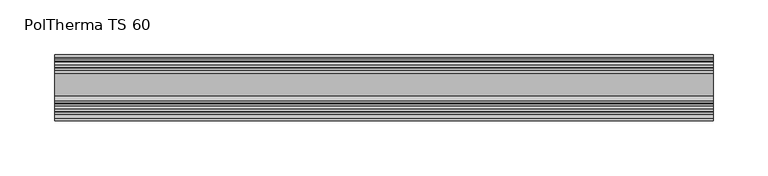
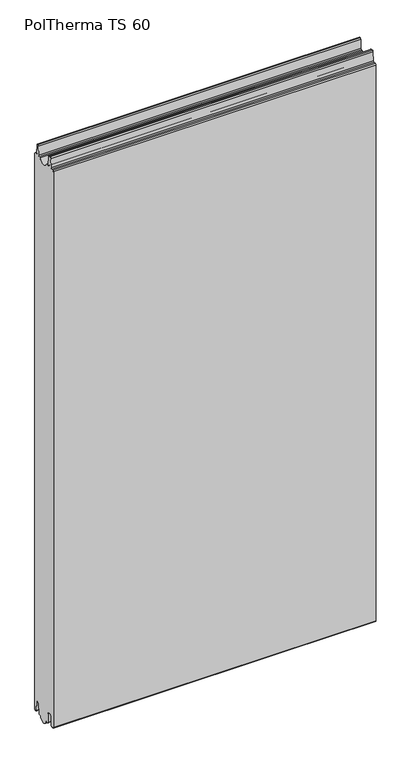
"""IFC4 building model written with IfcOpenShell, lengths in millimetres: plate geometry, Europanels_Poltherma TS_Hz : PolTherma TS 60."""

from ifc_helpers import new_model, si_unit, frame, origin, place, context, project, spatial, polyline, circle_curve, source, transform, mapped, element, save
from ifc_brep_helpers import plane_surface, cylinder_surface, revolved_surface, advanced_brep


def poltherma_ts_60_9aed752a(model_context):
    return source(origin(), model_context, "Body", "AdvancedBrep", [
        advanced_brep(
        [(300.0, -30.0, 1096.5011047), (300.0, -30.0, 3.4988953), (300.0, -28.0, 1.4988953), (300.0, -25.2751521, 1.4988953), (300.0, -23.2780726, 3.3908514), (300.0, -22.3165207, 21.1641379), (300.0, -19.3209015, 24.0020721), (300.0, -16.3793238, 24.0020721), (300.0, -13.3842966, 21.1747334), (300.0, -12.3477941, 3.1952985), (300.0, -10.5507777, 1.4988953), (300.0, -7.1267156, 1.4988953), (300.0, 12.5267156, 1.4988953), (300.0, 14.9895357, 1.4988953), (300.0, 16.7366349, 3.1481762), (300.0, 17.7718427, 21.1051522), (300.0, 24.3282622, 21.093556), (300.0, 25.2663769, 3.7534806), (300.0, 30.0, 3.8814338), (300.0, 30.0, 1096.5011047), (300.0, 28.0, 1098.5011047), (300.0, 26.2557869, 1098.5011047), (300.0, 24.2596673, 1100.3765791), (300.0, 23.1836057, 1117.6256302), (300.0, 20.8891901, 1119.5129093), (300.0, 18.8727407, 1117.5838246), (300.0, 18.1120505, 1100.4152514), (300.0, 16.113894, 1098.5011047), (300.0, 13.3234285, 1098.5011047), (300.0, -7.9234285, 1098.5011047), (300.0, -11.9117672, 1098.5011047), (300.0, -13.7101357, 1100.2244834), (300.0, -14.4498501, 1117.5862394), (300.0, -16.4480373, 1119.5011047), (300.0, -19.1874198, 1119.5011047), (300.0, -21.1836192, 1117.624345), (300.0, -22.2483736, 1100.3778643), (300.0, -24.244573, 1098.5011047), (300.0, -28.0, 1098.5011047), (-300.0, -30.0, 1096.5011047), (-300.0, -28.0, 1098.5011047), (-300.0, -24.244573, 1098.5011047), (-300.0, -22.2483736, 1100.3778643), (-300.0, -21.1836192, 1117.624345), (-300.0, -19.1874198, 1119.5011047), (-300.0, -16.4480373, 1119.5011047), (-300.0, -14.4498501, 1117.5862394), (-300.0, -13.7101357, 1100.2244834), (-300.0, -11.9117672, 1098.5011047), (-300.0, -7.9234285, 1098.5011047), (-300.0, 13.3234285, 1098.5011047), (-300.0, 16.113894, 1098.5011047), (-300.0, 18.1120505, 1100.4152514), (-300.0, 18.8727407, 1117.5838246), (-300.0, 20.8891901, 1119.5129093), (-300.0, 23.1349611, 1117.6366155), (-300.0, 24.2596673, 1100.3765791), (-300.0, 26.2557869, 1098.5011047), (-300.0, 28.0, 1098.5011047), (-300.0, 30.0, 1096.5011047), (-300.0, 30.0, 3.8814338), (-300.0, 25.2663769, 3.7534806), (-300.0, 24.3282622, 21.093556), (-300.0, 17.7718427, 21.1051522), (-300.0, 16.7366349, 3.1481762), (-300.0, 14.9895357, 1.4988953), (-300.0, 12.5267156, 1.4988953), (-300.0, -7.1267156, 1.4988953), (-300.0, -10.5507777, 1.4988953), (-300.0, -12.3477941, 3.1952985), (-300.0, -13.3842966, 21.1747334), (-300.0, -16.3793238, 24.0020721), (-300.0, -19.3209015, 24.0020721), (-300.0, -22.3165207, 21.1641379), (-300.0, -23.2780726, 3.3908514), (-300.0, -25.2751521, 1.4988953), (-300.0, -28.0, 1.4988953), (-300.0, -30.0, 3.4988953)],
        [
            (0, 1),
            (1, 2, circle_curve(frame((300.0, -28.0, 3.4988953), z_axis=(1.0, 0.0, 0.0), x_axis=(0.0, 1.0, 0.0)), 2.0)),
            (2, 3),
            (3, 4, circle_curve(frame((300.0, -25.2751521, 3.4988953), z_axis=(1.0, 0.0, 0.0), x_axis=(0.0, 1.0, 0.0)), 2.0)),
            (4, 5),
            (5, 6, circle_curve(frame((300.0, -19.3209015, 21.0020721), z_axis=(-1.0, 0.0, 0.0), x_axis=(0.0, 1.0, 0.0)), 3.0)),
            (6, 7),
            (7, 8, circle_curve(frame((300.0, -16.3793238, 21.0020721), z_axis=(-1.0, 0.0, 0.0), x_axis=(0.0, 1.0, 0.0)), 3.0)),
            (8, 9),
            (9, 10, circle_curve(frame((300.0, -10.5507777, 3.2988953), z_axis=(1.0, 0.0, 0.0), x_axis=(0.0, 1.0, 0.0)), 1.8)),
            (10, 11),
            (11, 12, circle_curve(frame((300.0, 2.7, 3.3524487), z_axis=(1.0, 0.0, 0.0), x_axis=(0.0, 1.0, 0.0)), 10.0)),
            (12, 13),
            (13, 14, circle_curve(frame((300.0, 14.9895357, 3.2488953), z_axis=(1.0, 0.0, 0.0), x_axis=(0.0, 1.0, 0.0)), 1.75)),
            (14, 15),
            (15, 16, circle_curve(frame((300.0, 21.0497285, 20.9161842), z_axis=(-1.0, 0.0, 0.0), x_axis=(0.0, 1.0, 0.0)), 3.2833282)),
            (16, 17),
            (17, 18, circle_curve(frame((300.0, 27.6314591, 3.8814338), z_axis=(1.0, 0.0, 0.0), x_axis=(0.0, 1.0, 0.0)), 2.3685409)),
            (18, 19),
            (19, 20, circle_curve(frame((300.0, 28.0, 1096.5011047), z_axis=(1.0, 0.0, 0.0), x_axis=(0.0, 1.0, 0.0)), 2.0)),
            (20, 21),
            (21, 22, circle_curve(frame((300.0, 26.2557869, 1100.5011047), z_axis=(-1.0, 0.0, 0.0), x_axis=(0.0, 1.0, 0.0)), 2.0)),
            (22, 23),
            (23, 24, circle_curve(frame((300.0, 21.1234323, 1117.5111287), z_axis=(1.0, 0.0, 0.0), x_axis=(0.0, 1.0, 0.0)), 2.0154391)),
            (24, 25, circle_curve(frame((300.0, 20.8891901, 1117.4944815), z_axis=(1.0, 0.0, 0.0), x_axis=(0.0, 1.0, 0.0)), 2.0184277)),
            (25, 26),
            (26, 27, circle_curve(frame((300.0, 16.113894, 1100.5011047), z_axis=(-1.0, 0.0, 0.0), x_axis=(0.0, 1.0, 0.0)), 2.0)),
            (27, 28),
            (28, 29, circle_curve(frame((300.0, 2.7, 1101.354658), z_axis=(-1.0, 0.0, 0.0), x_axis=(0.0, 1.0, 0.0)), 11.0)),
            (29, 30),
            (30, 31, circle_curve(frame((300.0, -11.9117672, 1100.3011047), z_axis=(-1.0, 0.0, 0.0), x_axis=(0.0, 1.0, 0.0)), 1.8)),
            (31, 32),
            (32, 33, circle_curve(frame((300.0, -16.4480373, 1117.5011047), z_axis=(1.0, 0.0, 0.0), x_axis=(0.0, 1.0, 0.0)), 2.0)),
            (33, 34),
            (34, 35, circle_curve(frame((300.0, -19.1874198, 1117.5011047), z_axis=(1.0, 0.0, 0.0), x_axis=(0.0, 1.0, 0.0)), 2.0)),
            (35, 36),
            (36, 37, circle_curve(frame((300.0, -24.244573, 1100.5011047), z_axis=(-1.0, 0.0, 0.0), x_axis=(0.0, 1.0, 0.0)), 2.0)),
            (37, 38),
            (38, 0, circle_curve(frame((300.0, -28.0, 1096.5011047), z_axis=(1.0, 0.0, 0.0), x_axis=(0.0, 1.0, 0.0)), 2.0)),
            (39, 40, circle_curve(frame((-300.0, -28.0, 1096.5011047), z_axis=(-1.0, 0.0, 0.0), x_axis=(0.0, 1.0, 0.0)), 2.0)),
            (40, 41),
            (41, 42, circle_curve(frame((-300.0, -24.244573, 1100.5011047), z_axis=(1.0, 0.0, 0.0), x_axis=(0.0, 1.0, 0.0)), 2.0)),
            (42, 43),
            (43, 44, circle_curve(frame((-300.0, -19.1874198, 1117.5011047), z_axis=(-1.0, 0.0, 0.0), x_axis=(0.0, 1.0, 0.0)), 2.0)),
            (44, 45),
            (45, 46, circle_curve(frame((-300.0, -16.4480373, 1117.5011047), z_axis=(-1.0, 0.0, 0.0), x_axis=(0.0, 1.0, 0.0)), 2.0)),
            (46, 47),
            (47, 48, circle_curve(frame((-300.0, -11.9117672, 1100.3011047), z_axis=(1.0, 0.0, 0.0), x_axis=(0.0, 1.0, 0.0)), 1.8)),
            (48, 49),
            (49, 50, circle_curve(frame((-300.0, 2.7, 1101.354658), z_axis=(1.0, 0.0, 0.0), x_axis=(0.0, 1.0, 0.0)), 11.0)),
            (50, 51),
            (51, 52, circle_curve(frame((-300.0, 16.113894, 1100.5011047), z_axis=(1.0, 0.0, 0.0), x_axis=(0.0, 1.0, 0.0)), 2.0)),
            (52, 53),
            (53, 54, circle_curve(frame((-300.0, 20.8891901, 1117.4944815), z_axis=(-1.0, 0.0, 0.0), x_axis=(0.0, 1.0, 0.0)), 2.0184277)),
            (54, 55, circle_curve(frame((-300.0, 21.1234323, 1117.5111287), z_axis=(-1.0, 0.0, 0.0), x_axis=(0.0, 1.0, 0.0)), 2.0154391)),
            (55, 56),
            (56, 57, circle_curve(frame((-300.0, 26.2557869, 1100.5011047), z_axis=(1.0, 0.0, 0.0), x_axis=(0.0, 1.0, 0.0)), 2.0)),
            (57, 58),
            (58, 59, circle_curve(frame((-300.0, 28.0, 1096.5011047), z_axis=(-1.0, 0.0, 0.0), x_axis=(0.0, 1.0, 0.0)), 2.0)),
            (59, 60),
            (60, 61, circle_curve(frame((-300.0, 27.6314591, 3.8814338), z_axis=(-1.0, 0.0, 0.0), x_axis=(0.0, 1.0, 0.0)), 2.3685409)),
            (61, 62),
            (62, 63, circle_curve(frame((-300.0, 21.0497285, 20.9161842), z_axis=(1.0, 0.0, 0.0), x_axis=(0.0, 1.0, 0.0)), 3.2833282)),
            (63, 64),
            (64, 65, circle_curve(frame((-300.0, 14.9895357, 3.2488953), z_axis=(-1.0, 0.0, 0.0), x_axis=(0.0, 1.0, 0.0)), 1.75)),
            (65, 66),
            (66, 67, circle_curve(frame((-300.0, 2.7, 3.3524487), z_axis=(-1.0, 0.0, 0.0), x_axis=(0.0, 1.0, 0.0)), 10.0)),
            (67, 68),
            (68, 69, circle_curve(frame((-300.0, -10.5507777, 3.2988953), z_axis=(-1.0, 0.0, 0.0), x_axis=(0.0, 1.0, 0.0)), 1.8)),
            (69, 70),
            (70, 71, circle_curve(frame((-300.0, -16.3793238, 21.0020721), z_axis=(1.0, 0.0, 0.0), x_axis=(0.0, 1.0, 0.0)), 3.0)),
            (71, 72),
            (72, 73, circle_curve(frame((-300.0, -19.3209015, 21.0020721), z_axis=(1.0, 0.0, 0.0), x_axis=(0.0, 1.0, 0.0)), 3.0)),
            (73, 74),
            (74, 75, circle_curve(frame((-300.0, -25.2751521, 3.4988953), z_axis=(-1.0, 0.0, 0.0), x_axis=(0.0, 1.0, 0.0)), 2.0)),
            (75, 76),
            (76, 77, circle_curve(frame((-300.0, -28.0, 3.4988953), z_axis=(-1.0, 0.0, 0.0), x_axis=(0.0, 1.0, 0.0)), 2.0)),
            (77, 39),
            (0, 39),
            (77, 1),
            (76, 2),
            (75, 3),
            (74, 4),
            (73, 5),
            (72, 6),
            (71, 7),
            (70, 8),
            (69, 9),
            (68, 10),
            (67, 11),
            (66, 12),
            (65, 13),
            (64, 14),
            (63, 15),
            (62, 16),
            (61, 17),
            (60, 18),
            (59, 19),
            (58, 20),
            (57, 21),
            (56, 22),
            (55, 23),
            (54, 24),
            (53, 25),
            (52, 26),
            (51, 27),
            (50, 28),
            (49, 29),
            (48, 30),
            (47, 31),
            (46, 32),
            (45, 33),
            (44, 34),
            (43, 35),
            (42, 36),
            (41, 37),
            (40, 38),
        ],
        [
            plane_surface(frame((300.0, -30.0, 3.4988953), z_axis=(1.0, 0.0, 0.0), x_axis=(0.0, 0.0, -1.0))),
            plane_surface(frame((-300.0, -30.0, 3.4988953), z_axis=(-1.0, 0.0, 0.0), x_axis=(0.0, 0.0, 1.0))),
            plane_surface(frame((300.0, -30.0, 1096.5011047), z_axis=(0.0, -1.0, 0.0), x_axis=(-1.0, 0.0, 0.0))),
            cylinder_surface(frame((-300.0, -28.0, 3.4988953), z_axis=(1.0, 0.0, 0.0), x_axis=(0.0, 1.0, 0.0)), 2.0),
            plane_surface(frame((300.0, -28.0, 1.4988953), z_axis=(0.0, 2.4317940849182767e-11, -1.0), x_axis=(-1.0, 0.0, 0.0))),
            cylinder_surface(frame((-300.0, -25.2751521, 3.4988953), z_axis=(1.0, 0.0, 0.0), x_axis=(0.0, 1.0, 0.0)), 2.0),
            plane_surface(frame((300.0, -23.2780726, 3.3908514), z_axis=(0.0, 0.9985397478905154, -0.054021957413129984), x_axis=(-1.0, 0.0, 0.0))),
            revolved_surface(polyline([(-300.0, -16.3209015, 21.0020721), (300.0, -16.3209015, 21.0020721)]), (-300.0, -19.3209015, 21.0020721), (-1.0, 0.0, 0.0)),
            plane_surface(frame((300.0, -19.3209015, 24.0020721), z_axis=(0.0, -3.679808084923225e-12, -1.0), x_axis=(-1.0, 0.0, 0.0))),
            revolved_surface(polyline([(-300.0, -13.379323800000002, 21.0020721), (300.0, -13.379323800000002, 21.0020721)]), (-300.0, -16.3793238, 21.0020721), (-1.0, 0.0, 0.0)),
            plane_surface(frame((300.0, -13.3842966, 21.1747334), z_axis=(0.0, -0.9983424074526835, -0.05755377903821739), x_axis=(-1.0, 0.0, 0.0))),
            cylinder_surface(frame((-300.0, -10.5507777, 3.2988953), z_axis=(1.0, 0.0, 0.0), x_axis=(0.0, 1.0, 0.0)), 1.8),
            plane_surface(frame((300.0, -10.5507777, 1.4988953), z_axis=(0.0, 7.512842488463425e-12, -1.0), x_axis=(-1.0, 0.0, 0.0))),
            cylinder_surface(frame((-300.0, 2.7, 3.3524487), z_axis=(1.0, 0.0, 0.0), x_axis=(0.0, 1.0, 0.0)), 10.0),
            plane_surface(frame((300.0, 12.5267156, 1.4988953), z_axis=(0.0, -5.6448534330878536e-11, -1.0), x_axis=(-1.0, 0.0, 0.0))),
            cylinder_surface(frame((-300.0, 14.9895357, 3.2488953), z_axis=(1.0, 0.0, 0.0), x_axis=(0.0, 1.0, 0.0)), 1.75),
            plane_surface(frame((300.0, 16.7366349, 3.1481762), z_axis=(0.0, 0.9983424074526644, -0.05755377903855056), x_axis=(-1.0, 0.0, 0.0))),
            revolved_surface(polyline([(-300.0, 24.3330567, 20.9161842), (300.0, 24.3330567, 20.9161842)]), (-300.0, 21.0497285, 20.9161842), (-1.0, 0.0, 0.0)),
            plane_surface(frame((300.0, 24.3282622, 21.093556), z_axis=(0.0, -0.9985397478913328, -0.05402195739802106), x_axis=(-1.0, 0.0, 0.0))),
            cylinder_surface(frame((-300.0, 27.6314591, 3.8814338), z_axis=(1.0, 0.0, 0.0), x_axis=(0.0, 1.0, 0.0)), 2.3685409),
            plane_surface(frame((300.0, 30.0, 3.8814338), z_axis=(0.0, 1.0, 0.0), x_axis=(-1.0, 0.0, 0.0))),
            cylinder_surface(frame((-300.0, 28.0, 1096.5011047), z_axis=(1.0, 0.0, 0.0), x_axis=(0.0, 1.0, 0.0)), 2.0),
            plane_surface(frame((300.0, 28.0, 1098.5011047), z_axis=(0.0, 1.862502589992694e-12, 1.0), x_axis=(-1.0, 0.0, 0.0))),
            revolved_surface(polyline([(-300.0, 28.2557869, 1100.5011047), (300.0, 28.2557869, 1100.5011047)]), (-300.0, 26.2557869, 1100.5011047), (-1.0, 0.0, 0.0)),
            plane_surface(frame((300.0, 24.2596673, 1100.3765791), z_axis=(0.0, 0.9980597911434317, 0.06226277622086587), x_axis=(-1.0, 0.0, 0.0))),
            cylinder_surface(frame((-300.0, 21.1234323, 1117.5111287), z_axis=(1.0, 0.0, 0.0), x_axis=(0.0, 1.0, 0.0)), 2.0154391),
            cylinder_surface(frame((-300.0, 20.8891901, 1117.4944815), z_axis=(1.0, 0.0, 0.0), x_axis=(0.0, 1.0, 0.0)), 2.0184277),
            plane_surface(frame((300.0, 18.8727407, 1117.5838246), z_axis=(0.0, -0.9990198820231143, 0.04426370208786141), x_axis=(-1.0, 0.0, 0.0))),
            revolved_surface(polyline([(-300.0, 18.113894, 1100.5011047), (300.0, 18.113894, 1100.5011047)]), (-300.0, 16.113894, 1100.5011047), (-1.0, 0.0, 0.0)),
            plane_surface(frame((300.0, 16.113894, 1098.5011047), z_axis=(0.0, 0.0, 1.0), x_axis=(-1.0, 0.0, 0.0))),
            revolved_surface(polyline([(-300.0, 13.7, 1101.354658), (300.0, 13.7, 1101.354658)]), (-300.0, 2.7, 1101.354658), (-1.0, 0.0, 0.0)),
            plane_surface(frame((300.0, -7.9234285, 1098.5011047), z_axis=(0.0, 0.0, 1.0), x_axis=(-1.0, 0.0, 0.0))),
            revolved_surface(polyline([(-300.0, -10.1117672, 1100.3011047), (300.0, -10.1117672, 1100.3011047)]), (-300.0, -11.9117672, 1100.3011047), (-1.0, 0.0, 0.0)),
            plane_surface(frame((300.0, -13.7101357, 1100.2244834), z_axis=(0.0, 0.9990935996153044, 0.042567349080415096), x_axis=(-1.0, 0.0, 0.0))),
            cylinder_surface(frame((-300.0, -16.4480373, 1117.5011047), z_axis=(1.0, 0.0, 0.0), x_axis=(0.0, 1.0, 0.0)), 2.0),
            plane_surface(frame((300.0, -16.4480373, 1119.5011047), z_axis=(0.0, 0.0, 1.0), x_axis=(-1.0, 0.0, 0.0))),
            cylinder_surface(frame((-300.0, -19.1874198, 1117.5011047), z_axis=(1.0, 0.0, 0.0), x_axis=(0.0, 1.0, 0.0)), 2.0),
            plane_surface(frame((300.0, -21.1836192, 1117.624345), z_axis=(0.0, -0.9980996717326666, 0.06162016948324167), x_axis=(-1.0, 0.0, 0.0))),
            revolved_surface(polyline([(-300.0, -22.244573, 1100.5011047), (300.0, -22.244573, 1100.5011047)]), (-300.0, -24.244573, 1100.5011047), (-1.0, 0.0, 0.0)),
            plane_surface(frame((300.0, -24.244573, 1098.5011047), z_axis=(0.0, 0.0, 1.0), x_axis=(-1.0, 0.0, 0.0))),
            cylinder_surface(frame((-300.0, -28.0, 1096.5011047), z_axis=(1.0, 0.0, 0.0), x_axis=(0.0, 1.0, 0.0)), 2.0),
        ],
        [
            (0, [[1, 2, 3, 4, 5, 6, 7, 8, 9, 10, 11, 12, 13, 14, 15, 16, 17, 18, 19, 20, 21, 22, 23, 24, 25, 26, 27, 28, 29, 30, 31, 32, 33, 34, 35, 36, 37, 38, 39]]),
            (1, [[40, 41, 42, 43, 44, 45, 46, 47, 48, 49, 50, 51, 52, 53, 54, 55, 56, 57, 58, 59, 60, 61, 62, 63, 64, 65, 66, 67, 68, 69, 70, 71, 72, 73, 74, 75, 76, 77, 78]]),
            (2, [[-1, 79, -78, 80]]),
            (3, [[-2, -80, -77, 81]]),
            (4, [[-3, -81, -76, 82]]),
            (5, [[-4, -82, -75, 83]]),
            (6, [[-5, -83, -74, 84]]),
            (7, [[-6, -84, -73, 85]]),
            (8, [[-7, -85, -72, 86]]),
            (9, [[-8, -86, -71, 87]]),
            (10, [[-9, -87, -70, 88]]),
            (11, [[-10, -88, -69, 89]]),
            (12, [[-11, -89, -68, 90]]),
            (13, [[-12, -90, -67, 91]]),
            (14, [[-13, -91, -66, 92]]),
            (15, [[-14, -92, -65, 93]]),
            (16, [[-15, -93, -64, 94]]),
            (17, [[-16, -94, -63, 95]]),
            (18, [[-17, -95, -62, 96]]),
            (19, [[-18, -96, -61, 97]]),
            (20, [[-19, -97, -60, 98]]),
            (21, [[-20, -98, -59, 99]]),
            (22, [[-21, -99, -58, 100]]),
            (23, [[-22, -100, -57, 101]]),
            (24, [[-23, -101, -56, 102]]),
            (25, [[-24, -102, -55, 103]]),
            (26, [[-25, -103, -54, 104]]),
            (27, [[-26, -104, -53, 105]]),
            (28, [[-27, -105, -52, 106]]),
            (29, [[-28, -106, -51, 107]]),
            (30, [[-29, -107, -50, 108]]),
            (31, [[-30, -108, -49, 109]]),
            (32, [[-31, -109, -48, 110]]),
            (33, [[-32, -110, -47, 111]]),
            (34, [[-33, -111, -46, 112]]),
            (35, [[-34, -112, -45, 113]]),
            (36, [[-35, -113, -44, 114]]),
            (37, [[-36, -114, -43, 115]]),
            (38, [[-37, -115, -42, 116]]),
            (39, [[-38, -116, -41, 117]]),
            (40, [[-39, -117, -40, -79]]),
        ],
    ),
    ])


if __name__ == "__main__":
    model = new_model("IFC4")
    model_context = context("Model", 3, world=origin())
    ifc_project = project(units=[si_unit("LENGTHUNIT", "METRE", prefix="MILLI")], contexts=[model_context])
    site = spatial("IfcSite", under=ifc_project)
    building = spatial("IfcBuilding", under=site)
    placement = place(None, origin())
    poltherma_ts_60_shape = poltherma_ts_60_9aed752a(model_context)
    element("IfcPlate", 1, ObjectType="Europanels_Poltherma TS_Hz : PolTherma TS 60", at=placement, inside=building, context=model_context, shape_type="MappedRepresentation", body=[
        mapped(poltherma_ts_60_shape, transform((0.0, 0.0, 0.0), x_axis=(1.0, 0.0, 0.0), y_axis=(0.0, 1.0, 0.0), z_axis=(0.0, 0.0, 1.0))),
    ])
    save(model, "model.ifc")
